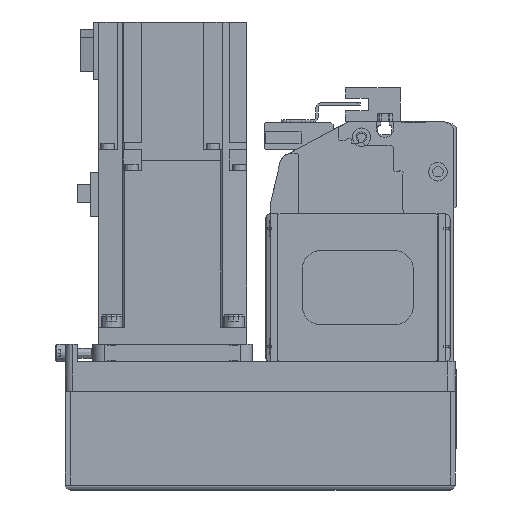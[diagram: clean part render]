
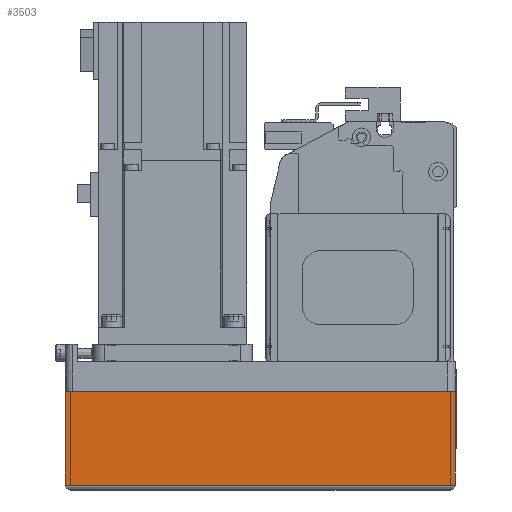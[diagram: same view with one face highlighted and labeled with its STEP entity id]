
A CAD part, left-side view. The second image highlights one B-rep face of the part: STEP entity #3503.
In plain terms, the highlighted planar face has unit normal (-1, 0, 0) as drawn and (0, -1, 0) by its records, which use the part's own axes.
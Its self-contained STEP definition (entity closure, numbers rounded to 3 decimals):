
#3503 = ADVANCED_FACE( '', ( #7388 ), #7389, .T. );
#7388 = FACE_OUTER_BOUND( '', #11315, .T. );
#7389 = PLANE( '', #11316 );
#11315 = EDGE_LOOP( '', ( #21058, #21059, #21060, #21061 ) );
#11316 = AXIS2_PLACEMENT_3D( '', #21062, #21063, #21064 );
#21058 = ORIENTED_EDGE( '', *, *, #24510, .F. );
#21059 = ORIENTED_EDGE( '', *, *, #25438, .F. );
#21060 = ORIENTED_EDGE( '', *, *, #23340, .T. );
#21061 = ORIENTED_EDGE( '', *, *, #25146, .T. );
#21062 = CARTESIAN_POINT( '', ( -158., -39., -12.1 ) );
#21063 = DIRECTION( '', ( 0., -1., 0. ) );
#21064 = DIRECTION( '', ( 0., 0., -1. ) );
#23340 = EDGE_CURVE( '', #28424, #28234, #28427, .T. );
#24510 = EDGE_CURVE( '', #29219, #29555, #30150, .T. );
#25146 = EDGE_CURVE( '', #28234, #29555, #30923, .T. );
#25438 = EDGE_CURVE( '', #28424, #29219, #31239, .T. );
#28234 = VERTEX_POINT( '', #35765 );
#28424 = VERTEX_POINT( '', #36092 );
#28427 = LINE( '', #36097, #36098 );
#29219 = VERTEX_POINT( '', #37602 );
#29555 = VERTEX_POINT( '', #38109 );
#30150 = LINE( '', #39032, #39033 );
#30923 = LINE( '', #40226, #40227 );
#31239 = LINE( '', #40659, #40660 );
#35765 = CARTESIAN_POINT( '', ( -158., -39., -50. ) );
#36092 = CARTESIAN_POINT( '', ( -158., -39., -12.1 ) );
#36097 = CARTESIAN_POINT( '', ( -158., -39., -12.1 ) );
#36098 = VECTOR( '', #42976, 1000. );
#37602 = CARTESIAN_POINT( '', ( 0., -39., -12.1 ) );
#38109 = CARTESIAN_POINT( '', ( 0., -39., -50. ) );
#39032 = CARTESIAN_POINT( '', ( 0., -39., -12.1 ) );
#39033 = VECTOR( '', #44364, 1000. );
#40226 = CARTESIAN_POINT( '', ( -158., -39., -50. ) );
#40227 = VECTOR( '', #44966, 1000. );
#40659 = CARTESIAN_POINT( '', ( -158., -39., -12.1 ) );
#40660 = VECTOR( '', #45127, 1000. );
#42976 = DIRECTION( '', ( 0., 0., -1. ) );
#44364 = DIRECTION( '', ( 0., 0., -1. ) );
#44966 = DIRECTION( '', ( 1., 0., 0. ) );
#45127 = DIRECTION( '', ( 1., 0., 0. ) );
